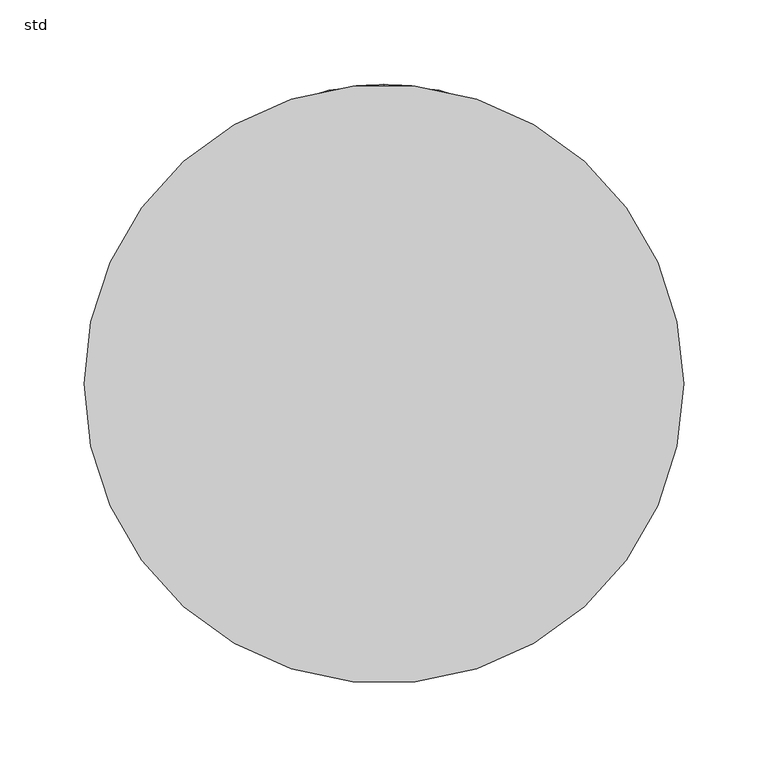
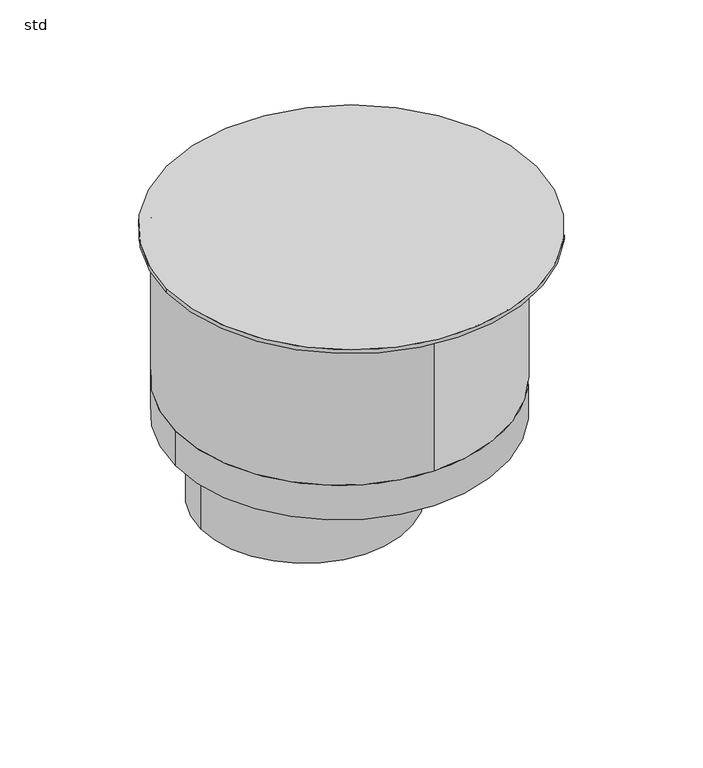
"""IFC4 building model written with IfcOpenShell, lengths in millimetres: pipe fitting geometry, Z_ME_UN_Aquacell_NG_Connection_Adapter_Wavin_(nested) : std."""

import ifcopenshell
import ifcopenshell.guid

model = None  # the IFC model being written
_history = None  # IfcOwnerHistory: only IFC2X3 demands one
_inside = {}  # id of a spatial element -> (the spatial element, [elements in it])
_under = {}  # id of a project, library or spatial element -> (it, [spatial elements below it])
_declared = {}  # id of a project -> (the project, [libraries it declares])
_typed = {}  # id of a type object -> (the type object, [elements of that type])
_made_of = {}  # id of a material, layer set ... -> (it, [elements and type objects made of it])


def new_model(schema):
    """Start an empty IFC model of exactly this schema.

    Asked for "IFC4X3", IfcOpenShell would pick the latest addendum, in which some entities
    have other attributes; the version numbers below select the first issue.
    IFC2X3 requires an IfcOwnerHistory on every rooted entity: one is made here for all.
    """
    global model, _history
    if schema == "IFC4X3":
        model = ifcopenshell.file(schema_version=(4, 3, 0, 0))
    else:
        model = ifcopenshell.file(schema=schema)
    _inside.clear()
    _under.clear()
    _declared.clear()
    _typed.clear()
    _made_of.clear()
    _history = None
    if model.schema == "IFC2X3":
        org = make("IfcOrganization", Name="unknown")
        user = make(
            "IfcPersonAndOrganization",
            ThePerson=make("IfcPerson", FamilyName="unknown"),
            TheOrganization=org,
        )
        app = make(
            "IfcApplication",
            ApplicationDeveloper=org,
            Version="unknown",
            ApplicationFullName="unknown",
            ApplicationIdentifier="unknown",
        )
        _history = make(
            "IfcOwnerHistory",
            OwningUser=user,
            OwningApplication=app,
            ChangeAction="ADDED",
            CreationDate=0,
        )
    return model


def make(cls, **values):
    """One entity of the class cls with the attributes given. An attribute that is None is left unset."""
    return model.create_entity(
        cls, **{name: value for name, value in values.items() if value is not None}
    )


def rooted(cls, **values):
    """An entity with a GlobalId (a new one), such as an element, a storey or a relation."""
    return make(cls, GlobalId=ifcopenshell.guid.new(), OwnerHistory=_history, **values)


def si_unit(unit_type, name, prefix=None):
    """IfcSIUnit, for example si_unit("LENGTHUNIT", "METRE", prefix="MILLI")."""
    return make("IfcSIUnit", UnitType=unit_type, Prefix=prefix, Name=name)


def assignment(units):
    """IfcUnitAssignment: the units of a project."""
    return None if units is None else make("IfcUnitAssignment", Units=units)


def point(xyz):
    """IfcCartesianPoint."""
    return None if xyz is None else make("IfcCartesianPoint", Coordinates=xyz)


def direction(xyz):
    """IfcDirection."""
    return None if xyz is None else make("IfcDirection", DirectionRatios=xyz)


def frame(location, z_axis=None, x_axis=None):
    """IfcAxis2Placement3D, a coordinate frame: its origin and axes. An axis left out is left unset."""
    return make(
        "IfcAxis2Placement3D",
        Location=point(location),
        Axis=direction(z_axis),
        RefDirection=direction(x_axis),
    )


def frame_2d(location, x_axis=None):
    """IfcAxis2Placement2D, a coordinate frame in the plane: its origin and x axis."""
    return make(
        "IfcAxis2Placement2D", Location=point(location), RefDirection=direction(x_axis)
    )


def origin():
    """The frame at (0, 0, 0) with its axes left unset."""
    return frame((0.0, 0.0, 0.0))


def origin_2d():
    """The frame at (0, 0) in the plane with its x axis left unset."""
    return frame_2d((0.0, 0.0))


def place(relative_to, where):
    """IfcLocalPlacement: puts the frame where relative to a parent placement (None: the world)."""
    return make(
        "IfcLocalPlacement", PlacementRelTo=relative_to, RelativePlacement=where
    )


def context(
    kind, dimensions, precision=None, world=None, true_north=None, identifier=None
):
    """IfcGeometricRepresentationContext, for example the 3D "Model" context."""
    return make(
        "IfcGeometricRepresentationContext",
        ContextIdentifier=identifier,
        ContextType=kind,
        CoordinateSpaceDimension=dimensions,
        Precision=precision,
        WorldCoordinateSystem=world,
        TrueNorth=true_north,
    )


def project(units=None, contexts=None):
    """IfcProject with its units and contexts."""
    return rooted(
        "IfcProject",
        Name="project",
        RepresentationContexts=contexts,
        UnitsInContext=assignment(units),
    )


def spatial(cls, under=None, at=None, **own):
    """A site, building, storey or space (cls), placed at a placement, below another one or the project."""
    s = rooted(cls, ObjectPlacement=at, **own)
    if under is not None:
        _under.setdefault(under.id(), (under, []))[1].append(s)
    return s


def polyline(points):
    """IfcPolyline through the points."""
    return make("IfcPolyline", Points=[point(p) for p in points])


def circle_curve(where, radius):
    """IfcCircle in the frame where."""
    return make("IfcCircle", Position=where, Radius=radius)


def trimmed(basis, trim1, trim2, sense, master):
    """IfcTrimmedCurve: the piece of a basis curve between two trims."""
    return make(
        "IfcTrimmedCurve",
        BasisCurve=basis,
        Trim1=trim1,
        Trim2=trim2,
        SenseAgreement=sense,
        MasterRepresentation=master,
    )


def segment(curve, same_sense, transition):
    """IfcCompositeCurveSegment."""
    return make(
        "IfcCompositeCurveSegment",
        Transition=transition,
        SameSense=same_sense,
        ParentCurve=curve,
    )


def composite_curve(segments, self_intersect=None):
    """IfcCompositeCurve: segments joined end to end."""
    return make("IfcCompositeCurve", Segments=segments, SelfIntersect=self_intersect)


def outline(outer, holes=None, kind="AREA"):
    """IfcArbitraryClosedProfileDef: a profile drawn as a closed curve; with holes, ...WithVoids."""
    if holes is None:
        return make("IfcArbitraryClosedProfileDef", ProfileType=kind, OuterCurve=outer)
    return make(
        "IfcArbitraryProfileDefWithVoids",
        ProfileType=kind,
        OuterCurve=outer,
        InnerCurves=holes,
    )


def extrude(swept, where, along, depth):
    """IfcExtrudedAreaSolid: the profile swept, set in the frame where, extruded along a direction by depth."""
    return make(
        "IfcExtrudedAreaSolid",
        SweptArea=swept,
        Position=where,
        ExtrudedDirection=direction(along),
        Depth=depth,
    )


def shape(context_of_items, identifier, shape_type, items):
    """IfcShapeRepresentation: the items that make up one representation, for example the "Body"."""
    return make(
        "IfcShapeRepresentation",
        ContextOfItems=context_of_items,
        RepresentationIdentifier=identifier,
        RepresentationType=shape_type,
        Items=items,
    )


def source(mapping_origin, context_of_items, identifier, shape_type, items):
    """IfcRepresentationMap: a shape defined once, which mapped items show again and again."""
    return make(
        "IfcRepresentationMap",
        MappingOrigin=mapping_origin,
        MappedRepresentation=shape(context_of_items, identifier, shape_type, items),
    )


def transform(
    local_origin,
    x_axis=None,
    y_axis=None,
    z_axis=None,
    scale=None,
    scale2=None,
    scale3=None,
    uniform=True,
):
    """IfcCartesianTransformationOperator3D, or its non-uniform kind. x_axis, y_axis, z_axis: its Axis1, 2, 3."""
    if uniform:
        return make(
            "IfcCartesianTransformationOperator3D",
            Axis1=direction(x_axis),
            Axis2=direction(y_axis),
            LocalOrigin=point(local_origin),
            Scale=scale,
            Axis3=direction(z_axis),
        )
    return make(
        "IfcCartesianTransformationOperator3DnonUniform",
        Axis1=direction(x_axis),
        Axis2=direction(y_axis),
        LocalOrigin=point(local_origin),
        Scale=scale,
        Axis3=direction(z_axis),
        Scale2=scale2,
        Scale3=scale3,
    )


def mapped(mapping_source, mapping_target):
    """IfcMappedItem: shows the shape of a source again, moved by a transform."""
    return make(
        "IfcMappedItem", MappingSource=mapping_source, MappingTarget=mapping_target
    )


def made_of(thing, what):
    """Note that an element or type object is made of a material, layer set ...; save() writes the relation."""
    if what is not None:
        _made_of.setdefault(what.id(), (what, []))[1].append(thing)
    return thing


def element(
    cls,
    number,
    at=None,
    inside=None,
    cuts=None,
    type_object=None,
    material=None,
    context=None,
    identifier="Body",
    shape_type=None,
    held_by="IfcProductDefinitionShape",
    body=None,
    shapes=None,
    **own,
):
    """One element of the class cls, such as IfcWall. Its Tag is "e" and its number.

    at: its placement. inside: the storey or other place that contains it. cuts: it is an
    opening in that element (IfcRelVoidsElement). A single representation is given by context,
    identifier, shape_type and body (its items); several are given by shapes. held_by: the class
    of the entity that holds the representations. save() writes the other relations.
    """
    e = rooted(cls, Tag="e%d" % number, ObjectPlacement=at, **own)
    if body is not None:
        shapes = [shape(context, identifier, shape_type, body)]
    if shapes is not None:
        e.Representation = make(held_by, Representations=shapes)
    if inside is not None:
        _inside.setdefault(inside.id(), (inside, []))[1].append(e)
    if cuts is not None:
        rooted(
            "IfcRelVoidsElement", RelatingBuildingElement=cuts, RelatedOpeningElement=e
        )
    if type_object is not None:
        _typed.setdefault(type_object.id(), (type_object, []))[1].append(e)
    return made_of(e, material)


def aggregate(whole, parts):
    """IfcRelAggregates: a whole, such as a stair, and the parts it consists of."""
    return rooted("IfcRelAggregates", RelatingObject=whole, RelatedObjects=parts)


def save(model, path):
    """Write the relations noted so far, then the file.

    IfcRelAggregates (storeys below a building ...), IfcRelContainedInSpatialStructure (elements
    in a storey), IfcRelDefinesByType, IfcRelAssociatesMaterial and IfcRelDeclares: one each for
    every whole, place, type object, material and project.
    """
    for whole, parts in _under.values():
        aggregate(whole, parts)
    for where, things in _inside.values():
        rooted(
            "IfcRelContainedInSpatialStructure",
            RelatedElements=things,
            RelatingStructure=where,
        )
    for kind, things in _typed.values():
        rooted("IfcRelDefinesByType", RelatedObjects=things, RelatingType=kind)
    for what, things in _made_of.values():
        rooted("IfcRelAssociatesMaterial", RelatedObjects=things, RelatingMaterial=what)
    for by, libraries in _declared.values():
        rooted("IfcRelDeclares", RelatingContext=by, RelatedDefinitions=libraries)
    model.write(path)


def plane_surface(at):
    """IfcPlane: the flat surface through the origin of the frame at, square to its z axis."""
    return make("IfcPlane", Position=at)


def cylinder_surface(at, radius):
    """IfcCylindricalSurface: all points at the distance radius from the z axis of the frame at."""
    return make("IfcCylindricalSurface", Position=at, Radius=radius)


def revolved_surface(curve, axis_point, axis_direction):
    """IfcSurfaceOfRevolution: the curve turned about the line through axis_point along axis_direction."""
    return make(
        "IfcSurfaceOfRevolution",
        SweptCurve=make("IfcArbitraryOpenProfileDef", ProfileType="CURVE", Curve=curve),
        AxisPosition=make("IfcAxis1Placement", Location=point(axis_point), Axis=direction(axis_direction)),
    )


def advanced_brep(points, edges, surfaces, faces):
    """IfcAdvancedBrep: a solid bounded by faces that lie on surfaces and meet in shared edges.

    An edge is (start, end): straight between two places in points (the first is 0);
    or (start, end, curve); or (start, end, curve, False) where it runs against its curve.
    A face is (place in surfaces, loops), or (place, loops, False) where it looks against
    its surface's normal. A loop lists edges by number (the first is 1), with a minus sign
    where the edge is run from its end to its start. The first loop is the outer one.
    """
    corners = [point(p) for p in points]
    vertices = [make("IfcVertexPoint", VertexGeometry=c) for c in corners]
    made = []
    for start, end, *more in edges:
        made.append(
            make(
                "IfcEdgeCurve",
                EdgeStart=vertices[start],
                EdgeEnd=vertices[end],
                EdgeGeometry=more[0] if more else make("IfcPolyline", Points=[corners[start], corners[end]]),
                SameSense=more[1] if len(more) > 1 else True,
            )
        )
    hull = []
    for where, loops, *sense in faces:
        bounds = []
        for j, loop in enumerate(loops):
            ring = [make("IfcOrientedEdge", EdgeElement=made[abs(k) - 1], Orientation=k > 0) for k in loop]
            bounds.append(
                make(
                    "IfcFaceOuterBound" if j == 0 else "IfcFaceBound",
                    Bound=make("IfcEdgeLoop", EdgeList=ring),
                    Orientation=True,
                )
            )
        hull.append(make("IfcAdvancedFace", Bounds=bounds, FaceSurface=surfaces[where], SameSense=sense[0] if sense else True))
    return make("IfcAdvancedBrep", Outer=make("IfcClosedShell", CfsFaces=hull))


def std_61731345(model_context):
    return source(origin(), model_context, "Body", "SolidModel", [
        extrude(outline(composite_curve([segment(trimmed(circle_curve(frame_2d((0.0, -20.0)), 177.5), [point((-177.5, -20.0))], [point((177.5, -20.0))], False, "CARTESIAN"), True, "CONTINUOUS"), segment(trimmed(circle_curve(frame_2d((0.0, -20.0)), 177.5), [point((177.5, -20.0))], [point((-177.5, -20.0))], False, "CARTESIAN"), True, "CONTINUOUS")], self_intersect=False)), frame((0.0, 0.0, -4.0), z_axis=(0.0, 0.0, 1.0), x_axis=(1.0, 0.0, 0.0)), (0.0, 0.0, 1.0), 4.0),
        extrude(outline(composite_curve([segment(trimmed(circle_curve(origin_2d(), 157.5), [point((-157.5, 0.0))], [point((157.5, 0.0))], False, "CARTESIAN"), True, "CONTINUOUS"), segment(trimmed(circle_curve(origin_2d(), 157.5), [point((157.5, 0.0))], [point((-157.5, 0.0))], False, "CARTESIAN"), True, "CONTINUOUS")], self_intersect=False)), frame((0.0, 0.0, -199.0), z_axis=(0.0, 0.0, 1.0), x_axis=(1.0, 0.0, 0.0)), (0.0, 0.0, 1.0), 35.0),
        advanced_brep(
        [(-95.4, 57.5, -318.0), (95.4, 57.5, -318.0), (95.4, 57.5, -199.0), (-95.4, 57.5, -199.0), (-100.0, 57.5, -318.0), (100.0, 57.5, -318.0), (-100.0, 57.5, -199.0), (100.0, 57.5, -199.0)],
        [
            (0, 1, circle_curve(frame((0.0, 57.5, -318.0), z_axis=(0.0, 0.0, -1.0), x_axis=(1.0, 0.0, 0.0)), 95.4)),
            (1, 2),
            (2, 3, circle_curve(frame((0.0, 57.5, -199.0), z_axis=(0.0, 0.0, 1.0), x_axis=(1.0, 0.0, 0.0)), 95.4)),
            (3, 0),
            (1, 0, circle_curve(frame((0.0, 57.5, -318.0), z_axis=(0.0, 0.0, -1.0), x_axis=(1.0, 0.0, 0.0)), 95.4)),
            (3, 2, circle_curve(frame((0.0, 57.5, -199.0), z_axis=(0.0, 0.0, 1.0), x_axis=(1.0, 0.0, 0.0)), 95.4)),
            (4, 5, circle_curve(frame((0.0, 57.5, -318.0), z_axis=(0.0, 0.0, -1.0), x_axis=(1.0, 0.0, 0.0)), 100.0)),
            (5, 1),
            (0, 4),
            (5, 4, circle_curve(frame((0.0, 57.5, -318.0), z_axis=(0.0, 0.0, -1.0), x_axis=(1.0, 0.0, 0.0)), 100.0)),
            (6, 7, circle_curve(frame((0.0, 57.5, -199.0), z_axis=(0.0, 0.0, -1.0), x_axis=(1.0, 0.0, 0.0)), 100.0)),
            (7, 5),
            (4, 6),
            (7, 6, circle_curve(frame((0.0, 57.5, -199.0), z_axis=(0.0, 0.0, -1.0), x_axis=(1.0, 0.0, 0.0)), 100.0)),
            (2, 7),
            (6, 3),
        ],
        [
            revolved_surface(polyline([(95.4, 57.5, -199.0), (95.4, 57.5, -318.0)]), (0.0, 57.5, -580.0), (0.0, 0.0, 1.0)),
            plane_surface(frame((0.0, 57.5, -318.0), z_axis=(0.0, 0.0, -1.0), x_axis=(1.0, 0.0, 0.0))),
            cylinder_surface(frame((0.0, 57.5, -580.0), z_axis=(0.0, 0.0, 1.0), x_axis=(1.0, 0.0, 0.0)), 100.0),
            plane_surface(frame((0.0, 57.5, -199.0), z_axis=(0.0, 0.0, 1.0), x_axis=(1.0, 0.0, 0.0))),
        ],
        [
            (0, [[1, 2, 3, 4]]),
            (0, [[5, -4, 6, -2]]),
            (1, [[7, 8, -1, 9]]),
            (1, [[10, -9, -5, -8]]),
            (2, [[11, 12, -7, 13]]),
            (2, [[14, -13, -10, -12]]),
            (3, [[-3, 15, -11, 16]]),
            (3, [[-6, -16, -14, -15]]),
        ],
    ),
        advanced_brep(
        [(0.0, -152.9, -164.0), (0.0, 152.9, -164.0), (0.0, 152.9, -4.0), (0.0, -152.9, -4.0), (0.0, -157.5, -164.0), (0.0, 157.5, -164.0), (0.0, -157.5, -4.0), (0.0, 157.5, -4.0)],
        [
            (0, 1, circle_curve(frame((0.0, 0.0, -164.0), z_axis=(0.0, 0.0, -1.0), x_axis=(0.0, 1.0, 0.0)), 152.9)),
            (1, 2),
            (2, 3, circle_curve(frame((0.0, 0.0, -4.0), z_axis=(0.0, 0.0, 1.0), x_axis=(0.0, 1.0, 0.0)), 152.9)),
            (3, 0),
            (1, 0, circle_curve(frame((0.0, 0.0, -164.0), z_axis=(0.0, 0.0, -1.0), x_axis=(0.0, 1.0, 0.0)), 152.9)),
            (3, 2, circle_curve(frame((0.0, 0.0, -4.0), z_axis=(0.0, 0.0, 1.0), x_axis=(0.0, 1.0, 0.0)), 152.9)),
            (4, 5, circle_curve(frame((0.0, 0.0, -164.0), z_axis=(0.0, 0.0, -1.0), x_axis=(0.0, 1.0, 0.0)), 157.5)),
            (5, 1),
            (0, 4),
            (5, 4, circle_curve(frame((0.0, 0.0, -164.0), z_axis=(0.0, 0.0, -1.0), x_axis=(0.0, 1.0, 0.0)), 157.5)),
            (6, 7, circle_curve(frame((0.0, 0.0, -4.0), z_axis=(0.0, 0.0, -1.0), x_axis=(0.0, 1.0, 0.0)), 157.5)),
            (7, 5),
            (4, 6),
            (7, 6, circle_curve(frame((0.0, 0.0, -4.0), z_axis=(0.0, 0.0, -1.0), x_axis=(0.0, 1.0, 0.0)), 157.5)),
            (2, 7),
            (6, 3),
        ],
        [
            revolved_surface(polyline([(0.0, 152.9, -4.0), (0.0, 152.9, -164.0)]), (0.0, 0.0, 2741.4742198), (0.0, 0.0, 1.0)),
            plane_surface(frame((0.0, 0.0, -164.0), z_axis=(0.0, 0.0, -1.0), x_axis=(0.0, 1.0, 0.0))),
            cylinder_surface(frame((0.0, 0.0, 2741.4742198), z_axis=(0.0, 0.0, 1.0), x_axis=(0.0, 1.0, 0.0)), 157.5),
            plane_surface(frame((0.0, 0.0, -4.0), z_axis=(0.0, 0.0, 1.0), x_axis=(0.0, 1.0, 0.0))),
        ],
        [
            (0, [[1, 2, 3, 4]]),
            (0, [[5, -4, 6, -2]]),
            (1, [[7, 8, -1, 9]]),
            (1, [[10, -9, -5, -8]]),
            (2, [[11, 12, -7, 13]]),
            (2, [[14, -13, -10, -12]]),
            (3, [[-3, 15, -11, 16]]),
            (3, [[-6, -16, -14, -15]]),
        ],
    ),
    ])


if __name__ == "__main__":
    model = new_model("IFC4")
    model_context = context("Model", 3, world=origin())
    ifc_project = project(units=[si_unit("LENGTHUNIT", "METRE", prefix="MILLI")], contexts=[model_context])
    site = spatial("IfcSite", under=ifc_project)
    building = spatial("IfcBuilding", under=site)
    placement = place(None, origin())
    std_shape = std_61731345(model_context)
    element("IfcPipeFitting", 1, ObjectType="Z_ME_UN_Aquacell_NG_Connection_Adapter_Wavin_(nested) : std", at=placement, inside=building, context=model_context, shape_type="MappedRepresentation", body=[
        mapped(std_shape, transform((0.0, 0.0, 0.0), x_axis=(1.0, 0.0, 0.0), y_axis=(0.0, 1.0, 0.0), z_axis=(0.0, 0.0, 1.0))),
    ])
    save(model, "model.ifc")
